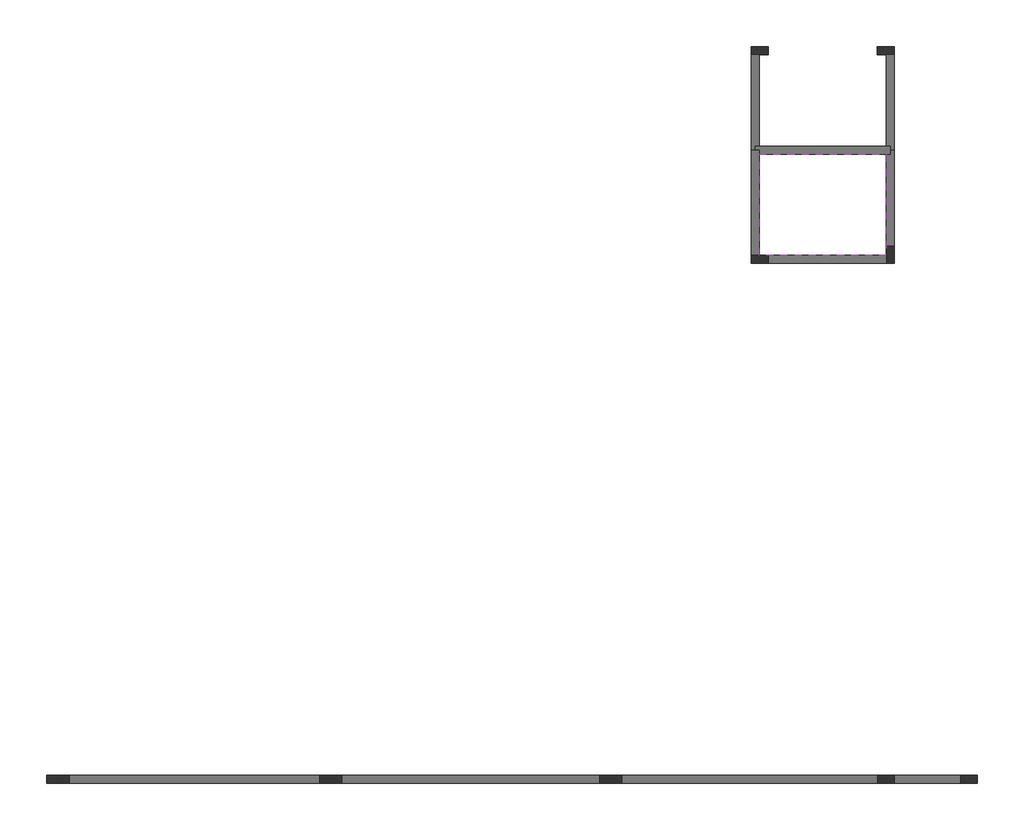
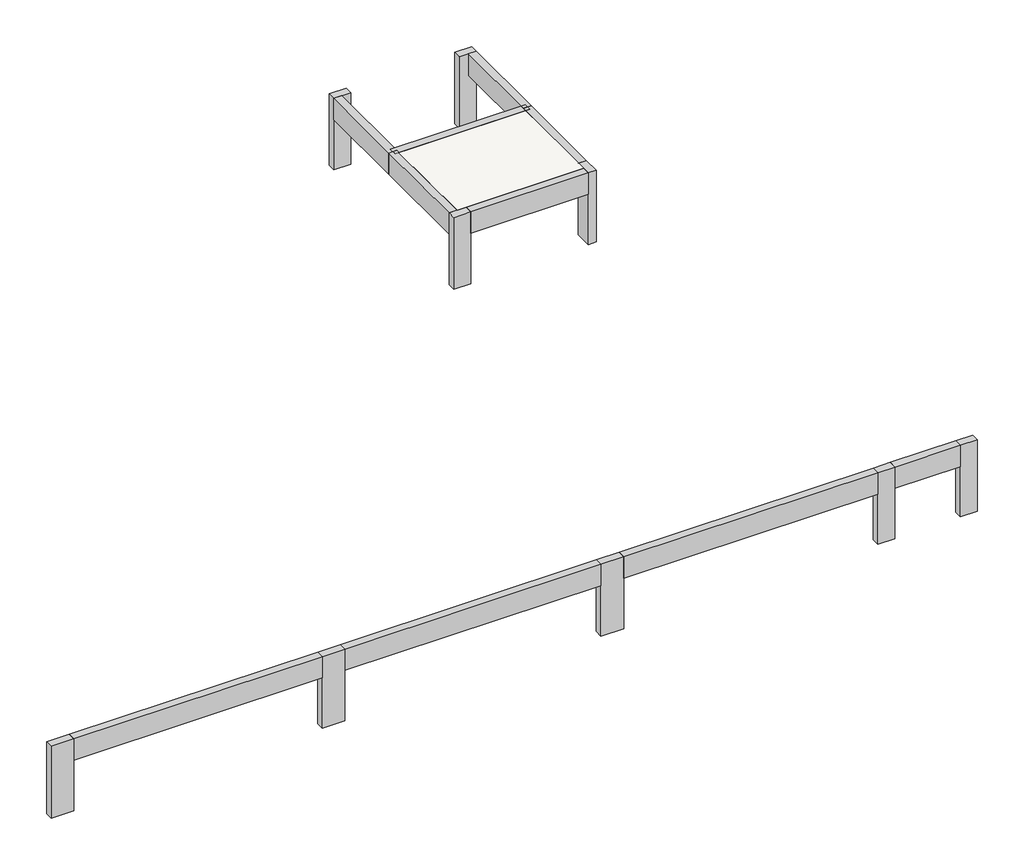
# One storey: 10 proxies, 9 columns, 1 slab.
"""IFC4 building model written with IfcOpenShell, lengths in millimetres."""

from ifc_helpers import new_model, si_unit, frame, origin, place, context, project, spatial, polyline, outline, extrude, transform, mapped, element, save
from components import structural_framing_e7eb55c1, structural_framing_1b804acc, structural_framing_f427761b, structural_framing_d1db9ec2, structural_framing_83119bec, structural_framing_643f2bae, structural_framing_c0783d92, structural_framing_17e9f187, slab_1bbf4d58

model = new_model("IFC4")

# Units and contexts
model_context = context("Model", 3, world=origin())
ifc_project = project(units=[si_unit("LENGTHUNIT", "METRE", prefix="MILLI")], contexts=[model_context])

# Site, building, storey
site = spatial("IfcSite", under=ifc_project)
building = spatial("IfcBuilding", under=site)
storey = spatial("IfcBuildingStorey", under=building, Name="RESPALDO", Elevation=3360.0)

# Proxies
placement = place(None, origin())
structural_framing_shape = structural_framing_e7eb55c1(model_context)
element("IfcBuildingElementProxy", 1, Name="Structural Framing", at=placement, inside=storey, context=model_context, shape_type="MappedRepresentation", body=[
    mapped(structural_framing_shape, transform((13932.0, 11955.2, 4700.0), x_axis=(1.0, 0.0, 0.0), y_axis=(0.0, 1.0, 0.0), z_axis=(0.0, 0.0, 1.0))),
])
structural_framing_2_shape = structural_framing_1b804acc(model_context)
element("IfcBuildingElementProxy", 2, Name="Structural Framing", at=placement, inside=storey, context=model_context, shape_type="MappedRepresentation", body=[
    mapped(structural_framing_2_shape, transform((2792.8, 2810.0, 4700.0), x_axis=(1.0, 0.0, 0.0), y_axis=(0.0, 1.0, 0.0), z_axis=(0.0, 0.0, 1.0))),
])
structural_framing_3_shape = structural_framing_f427761b(model_context)
element("IfcBuildingElementProxy", 3, Name="Structural Framing", at=placement, inside=storey, context=model_context, shape_type="MappedRepresentation", body=[
    mapped(structural_framing_3_shape, transform((7653.45, 2810.0, 4700.0), x_axis=(1.0, 0.0, 0.0), y_axis=(0.0, 1.0, 0.0), z_axis=(0.0, 0.0, 1.0))),
])
structural_framing_4_shape = structural_framing_d1db9ec2(model_context)
element("IfcBuildingElementProxy", 4, Name="Structural Framing", at=placement, inside=storey, context=model_context, shape_type="MappedRepresentation", body=[
    mapped(structural_framing_4_shape, transform((12564.05, 2810.0, 4700.0), x_axis=(1.0, 0.0, 0.0), y_axis=(0.0, 1.0, 0.0), z_axis=(0.0, 0.0, 1.0))),
])
structural_framing_5_shape = structural_framing_83119bec(model_context)
element("IfcBuildingElementProxy", 5, Name="Structural Framing", at=placement, inside=storey, context=model_context, shape_type="MappedRepresentation", body=[
    mapped(structural_framing_5_shape, transform((15692.05, 2810.0, 4700.0), x_axis=(1.0, 0.0, 0.0), y_axis=(0.0, 1.0, 0.0), z_axis=(0.0, 0.0, 1.0))),
])
structural_framing_6_shape = structural_framing_643f2bae(model_context)
element("IfcBuildingElementProxy", 6, Name="Structural Framing", at=placement, inside=storey, context=model_context, shape_type="MappedRepresentation", body=[
    mapped(structural_framing_6_shape, transform((13852.0, 13872.6, 4700.0), x_axis=(1.0, 0.0, 0.0), y_axis=(0.0, 1.0, 0.0), z_axis=(0.0, 0.0, 1.0))),
])
structural_framing_7_shape = structural_framing_c0783d92(model_context)
element("IfcBuildingElementProxy", 7, Name="Structural Framing", at=placement, inside=storey, context=model_context, shape_type="MappedRepresentation", body=[
    mapped(structural_framing_7_shape, transform((15041.8, 14716.3, 4700.0), x_axis=(1.0, 0.0, 0.0), y_axis=(0.0, 1.0, 0.0), z_axis=(0.0, 0.0, 1.0))),
])
element("IfcBuildingElementProxy", 8, Name="Structural Framing", at=placement, inside=storey, context=model_context, shape_type="MappedRepresentation", body=[
    mapped(structural_framing_7_shape, transform((15041.8, 13028.9, 4700.0), x_axis=(1.0, 0.0, 0.0), y_axis=(0.0, 1.0, 0.0), z_axis=(0.0, 0.0, 1.0))),
])
element("IfcBuildingElementProxy", 9, Name="Structural Framing", at=placement, inside=storey, context=model_context, shape_type="MappedRepresentation", body=[
    mapped(structural_framing_7_shape, transform((12662.2, 14716.3, 4700.0), x_axis=(1.0, 0.0, 0.0), y_axis=(0.0, 1.0, 0.0), z_axis=(0.0, 0.0, 1.0))),
])
structural_framing_8_shape = structural_framing_17e9f187(model_context)
element("IfcBuildingElementProxy", 10, Name="Structural Framing", at=placement, inside=storey, context=model_context, shape_type="MappedRepresentation", body=[
    mapped(structural_framing_8_shape, transform((12662.2, 12948.9, 4700.0), x_axis=(1.0, 0.0, 0.0), y_axis=(0.0, 1.0, 0.0), z_axis=(0.0, 0.0, 1.0))),
])

# Columns
element("IfcColumn", 11, at=placement, inside=storey, context=model_context, shape_type="SweptSolid", body=[
    extrude(outline(polyline([(12892.2, 12025.2), (12892.2, 11885.2), (12592.2, 11885.2), (12592.2, 12025.2), (12892.2, 12025.2)])), frame((0.0, 0.0, 3360.0), z_axis=(0.0, 0.0, 1.0), x_axis=(1.0, 0.0, 0.0)), (0.0, 0.0, 1.0), 1340.0),
    extrude(outline(polyline([(12892.2, 12025.2), (12892.2, 11885.2), (12592.2, 11885.2), (12592.2, 12025.2), (12892.2, 12025.2)])), frame((0.0, 0.0, 3360.0), z_axis=(0.0, 0.0, 1.0), x_axis=(1.0, 0.0, 0.0)), (0.0, 0.0, 1.0), 1340.0),
])
element("IfcColumn", 12, at=placement, inside=storey, context=model_context, shape_type="SweptSolid", body=[
    extrude(outline(polyline([(595.0, 2880.0), (595.0, 2740.0), (195.0, 2740.0), (195.0, 2880.0), (595.0, 2880.0)])), frame((0.0, 0.0, 3360.0), z_axis=(0.0, 0.0, 1.0), x_axis=(1.0, 0.0, 0.0)), (0.0, 0.0, 1.0), 1340.0),
    extrude(outline(polyline([(595.0, 2880.0), (595.0, 2740.0), (195.0, 2740.0), (195.0, 2880.0), (595.0, 2880.0)])), frame((0.0, 0.0, 3360.0), z_axis=(0.0, 0.0, 1.0), x_axis=(1.0, 0.0, 0.0)), (0.0, 0.0, 1.0), 1340.0),
])
element("IfcColumn", 13, at=placement, inside=storey, context=model_context, shape_type="SweptSolid", body=[
    extrude(outline(polyline([(16572.3, 2880.0), (16572.3, 2740.0), (16272.3, 2740.0), (16272.3, 2880.0), (16572.3, 2880.0)])), frame((0.0, 0.0, 3360.0), z_axis=(0.0, 0.0, 1.0), x_axis=(1.0, 0.0, 0.0)), (0.0, 0.0, 1.0), 1340.0),
    extrude(outline(polyline([(16572.3, 2880.0), (16572.3, 2740.0), (16272.3, 2740.0), (16272.3, 2880.0), (16572.3, 2880.0)])), frame((0.0, 0.0, 3360.0), z_axis=(0.0, 0.0, 1.0), x_axis=(1.0, 0.0, 0.0)), (0.0, 0.0, 1.0), 1340.0),
])
element("IfcColumn", 14, at=placement, inside=storey, context=model_context, shape_type="SweptSolid", body=[
    extrude(outline(polyline([(5390.6, 2880.0), (5390.6, 2740.0), (4990.6, 2740.0), (4990.6, 2880.0), (5390.6, 2880.0)])), frame((0.0, 0.0, 3360.0), z_axis=(0.0, 0.0, 1.0), x_axis=(1.0, 0.0, 0.0)), (0.0, 0.0, 1.0), 1340.0),
    extrude(outline(polyline([(5390.6, 2880.0), (5390.6, 2740.0), (4990.6, 2740.0), (4990.6, 2880.0), (5390.6, 2880.0)])), frame((0.0, 0.0, 3360.0), z_axis=(0.0, 0.0, 1.0), x_axis=(1.0, 0.0, 0.0)), (0.0, 0.0, 1.0), 1340.0),
])
element("IfcColumn", 15, at=placement, inside=storey, context=model_context, shape_type="SweptSolid", body=[
    extrude(outline(polyline([(10316.3, 2880.0), (10316.3, 2740.0), (9916.3, 2740.0), (9916.3, 2880.0), (10316.3, 2880.0)])), frame((0.0, 0.0, 3360.0), z_axis=(0.0, 0.0, 1.0), x_axis=(1.0, 0.0, 0.0)), (0.0, 0.0, 1.0), 1340.0),
    extrude(outline(polyline([(10316.3, 2880.0), (10316.3, 2740.0), (9916.3, 2740.0), (9916.3, 2880.0), (10316.3, 2880.0)])), frame((0.0, 0.0, 3360.0), z_axis=(0.0, 0.0, 1.0), x_axis=(1.0, 0.0, 0.0)), (0.0, 0.0, 1.0), 1340.0),
])
element("IfcColumn", 16, at=placement, inside=storey, context=model_context, shape_type="SweptSolid", body=[
    extrude(outline(polyline([(14971.8, 12185.2), (15111.8, 12185.2), (15111.8, 11885.2), (14971.8, 11885.2), (14971.8, 12185.2)])), frame((0.0, 0.0, 3360.0), z_axis=(0.0, 0.0, 1.0), x_axis=(1.0, 0.0, 0.0)), (0.0, 0.0, 1.0), 1340.0),
    extrude(outline(polyline([(14971.8, 12185.2), (15111.8, 12185.2), (15111.8, 11885.2), (14971.8, 11885.2), (14971.8, 12185.2)])), frame((0.0, 0.0, 3360.0), z_axis=(0.0, 0.0, 1.0), x_axis=(1.0, 0.0, 0.0)), (0.0, 0.0, 1.0), 1340.0),
])
element("IfcColumn", 17, at=placement, inside=storey, context=model_context, shape_type="SweptSolid", body=[
    extrude(outline(polyline([(12892.2, 15700.0), (12892.2, 15560.0), (12592.2, 15560.0), (12592.2, 15700.0), (12892.2, 15700.0)])), frame((0.0, 0.0, 3360.0), z_axis=(0.0, 0.0, 1.0), x_axis=(1.0, 0.0, 0.0)), (0.0, 0.0, 1.0), 1340.0),
    extrude(outline(polyline([(12892.2, 15700.0), (12892.2, 15560.0), (12592.2, 15560.0), (12592.2, 15700.0), (12892.2, 15700.0)])), frame((0.0, 0.0, 3360.0), z_axis=(0.0, 0.0, 1.0), x_axis=(1.0, 0.0, 0.0)), (0.0, 0.0, 1.0), 1340.0),
])
element("IfcColumn", 18, at=placement, inside=storey, context=model_context, shape_type="SweptSolid", body=[
    extrude(outline(polyline([(15111.8, 2880.0), (15111.8, 2740.0), (14811.8, 2740.0), (14811.8, 2880.0), (15111.8, 2880.0)])), frame((0.0, 0.0, 3360.0), z_axis=(0.0, 0.0, 1.0), x_axis=(1.0, 0.0, 0.0)), (0.0, 0.0, 1.0), 1340.0),
    extrude(outline(polyline([(15111.8, 2880.0), (15111.8, 2740.0), (14811.8, 2740.0), (14811.8, 2880.0), (15111.8, 2880.0)])), frame((0.0, 0.0, 3360.0), z_axis=(0.0, 0.0, 1.0), x_axis=(1.0, 0.0, 0.0)), (0.0, 0.0, 1.0), 1340.0),
])
element("IfcColumn", 19, at=placement, inside=storey, context=model_context, shape_type="SweptSolid", body=[
    extrude(outline(polyline([(15111.8, 15700.0), (15111.8, 15560.0), (14811.8, 15560.0), (14811.8, 15700.0), (15111.8, 15700.0)])), frame((0.0, 0.0, 3360.0), z_axis=(0.0, 0.0, 1.0), x_axis=(1.0, 0.0, 0.0)), (0.0, 0.0, 1.0), 1340.0),
    extrude(outline(polyline([(15111.8, 15700.0), (15111.8, 15560.0), (14811.8, 15560.0), (14811.8, 15700.0), (15111.8, 15700.0)])), frame((0.0, 0.0, 3360.0), z_axis=(0.0, 0.0, 1.0), x_axis=(1.0, 0.0, 0.0)), (0.0, 0.0, 1.0), 1340.0),
])

# Slab
slab_shape = slab_1bbf4d58(model_context)
element("IfcSlab", 20, at=placement, inside=storey, context=model_context, shape_type="MappedRepresentation", body=[
    mapped(slab_shape, transform((13852.0, 12913.905, 4700.0), x_axis=(1.0, 0.0, 0.0), y_axis=(0.0, 1.0, 0.0), z_axis=(0.0, 0.0, 1.0))),
])

save(model, "model.ifc")
